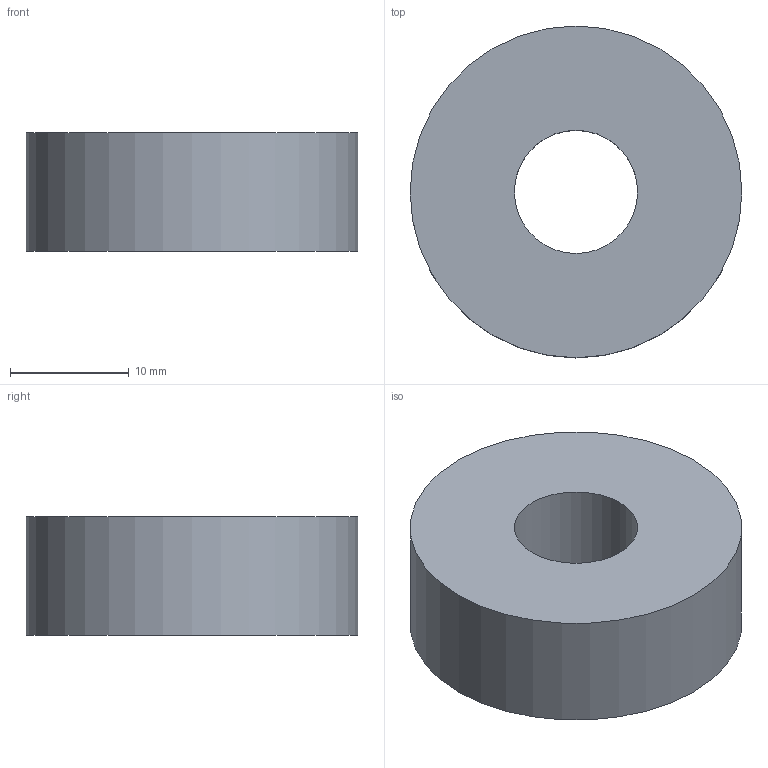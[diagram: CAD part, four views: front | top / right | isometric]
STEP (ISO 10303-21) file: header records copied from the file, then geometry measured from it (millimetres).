
FILE_DESCRIPTION(('Open CASCADE Model'),'2;1');
FILE_NAME('Open CASCADE Shape Model','2026-10-04T01:02:25',('Author'),( 'Open CASCADE'),'Open CASCADE STEP processor 8.0','Open CASCADE 8.0' ,'Unknown');
FILE_SCHEMA(('AUTOMOTIVE_DESIGN { 1 0 10303 214 1 1 1 1 }'));
Length unit declared in the file: millimetre
Products named in the file (1): Open CASCADE STEP translator 8.0 61
Bounding box: 28 x 28 x 10 mm (x, y, z)
Volume: 5308 mm3; surface area: 2268 mm2
Topology: 1 solids, 1 shells, 4 faces, 6 edges, 4 vertices
Faces by surface type: cylinder 2, plane 2
Full cylindrical faces by diameter (mm): 10.4 x1, 28 x1
Entity records: 186 total; most frequent: DIRECTION 32, CARTESIAN_POINT 27, ORIENTED_EDGE 12, PCURVE 12, DEFINITIONAL_REPRESENTATION 12, LINE 10, VECTOR 10, AXIS2_PLACEMENT_3D 9
